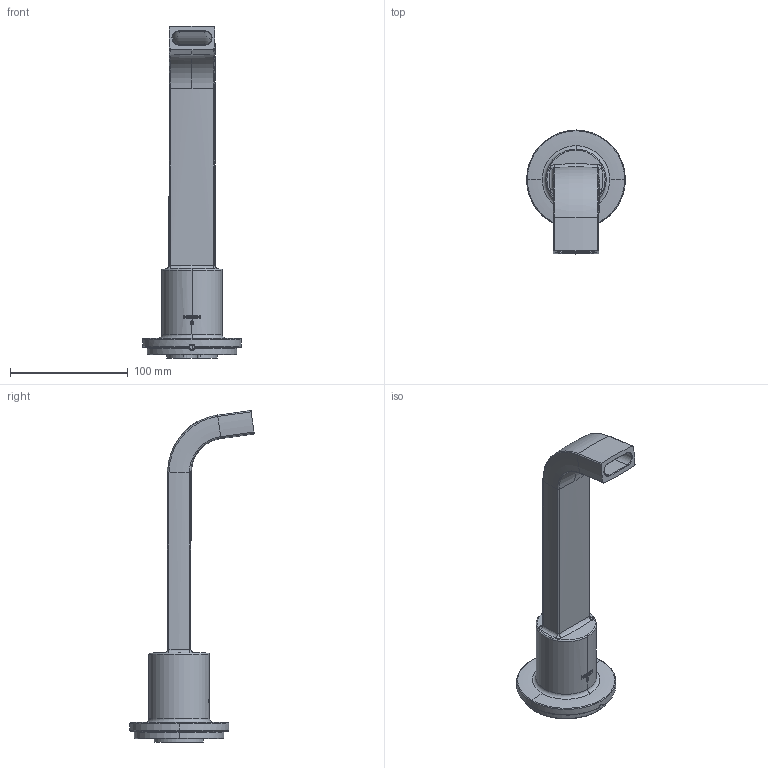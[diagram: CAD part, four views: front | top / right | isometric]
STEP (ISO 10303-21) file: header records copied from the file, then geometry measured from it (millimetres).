
FILE_DESCRIPTION (( 'STEP AP203' ), '1' );
FILE_NAME ('sku_tfs574series_stp.STEP', '2026-01-23T07:43:16', ( '' ), ( '' ), 'SwSTEP 2.0', 'SolidWorks 2025', '' );
FILE_SCHEMA (( 'CONFIG_CONTROL_DESIGN' ));
Length unit declared in the file: inch
Products named in the file (5): 216028series_216028SERIES_Part74; 91004_91004_Part76; 216030series_216030SERIES_Assem13; 206654_206654_BREP_Part75; sku_tfs574series_stp
Assembly tree (4 placements, depth 3):
  sku_tfs574series_stp
    216030series_216030SERIES_Assem13
      216028series_216028SERIES_Part74
      206654_206654_BREP_Part75
      91004_91004_Part76
Bounding box: 84 x 105.73 x 281.93 mm (x, y, z)
Volume: 193700.3 mm3; surface area: 85859 mm2
Topology: 3 solids, 3 shells, 250 faces, 615 edges, 382 vertices
Faces by surface type: cylinder 86, plane 61, bspline 48, torus 45, cone 9, sphere 1
Entity records: 13817 total; most frequent: CARTESIAN_POINT 7720, ORIENTED_EDGE 1226, DIRECTION 1109, EDGE_CURVE 613, AXIS2_PLACEMENT_3D 460, VERTEX_POINT 381, EDGE_LOOP 268, FACE_OUTER_BOUND 250
